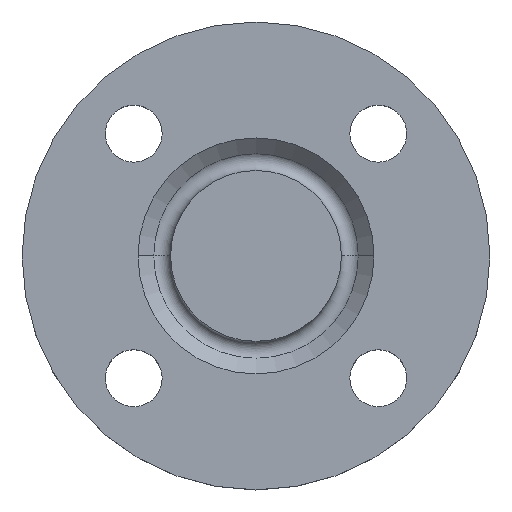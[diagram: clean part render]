
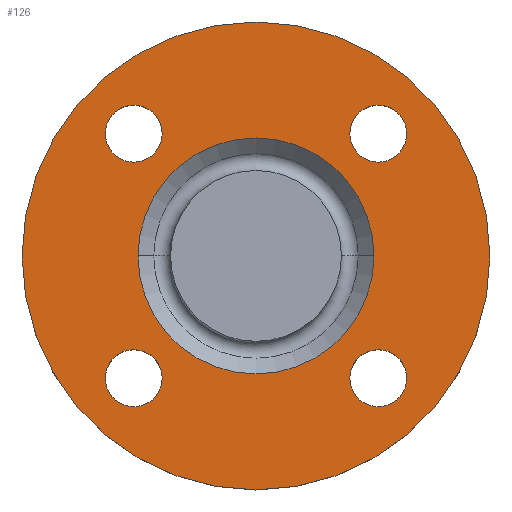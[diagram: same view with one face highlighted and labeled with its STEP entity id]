
A CAD part, top view. The second image highlights one B-rep face of the part: STEP entity #126.
In plain terms, the highlighted planar face has unit normal (0, 0, 1).
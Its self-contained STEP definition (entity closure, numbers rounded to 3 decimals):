
#1 = EDGE_CURVE ( 'NONE', #417, #412, #251, .T. ) ;
#3 = EDGE_CURVE ( 'NONE', #295, #188, #571, .T. ) ;
#10 = EDGE_CURVE ( 'NONE', #398, #407, #17, .T. ) ;
#17 = CIRCLE ( 'NONE', #243, 7. ) ;
#24 = EDGE_CURVE ( 'NONE', #412, #417, #563, .T. ) ;
#33 = CARTESIAN_POINT ( 'NONE',  ( 0., 0., -2. ) ) ;
#40 = DIRECTION ( 'NONE',  ( -1., 0., 0. ) ) ;
#41 = DIRECTION ( 'NONE',  ( 0., 0., -1. ) ) ;
#48 = CIRCLE ( 'NONE', #457, 7. ) ;
#49 = EDGE_CURVE ( 'NONE', #414, #397, #140, .T. ) ;
#52 = CARTESIAN_POINT ( 'NONE',  ( -30.052, 30.052, -2. ) ) ;
#55 = DIRECTION ( 'NONE',  ( 0., 0., -1. ) ) ;
#56 = DIRECTION ( 'NONE',  ( 1., 0., 0. ) ) ;
#63 = AXIS2_PLACEMENT_3D ( 'NONE', #220, #221, #222 ) ;
#65 = AXIS2_PLACEMENT_3D ( 'NONE', #437, #438, #440 ) ;
#67 = EDGE_CURVE ( 'NONE', #193, #341, #169, .T. ) ;
#85 = CIRCLE ( 'NONE', #63, 7. ) ;
#109 = AXIS2_PLACEMENT_3D ( 'NONE', #543, #544, #545 ) ;
#111 = AXIS2_PLACEMENT_3D ( 'NONE', #152, #160, #161 ) ;
#119 = CARTESIAN_POINT ( 'NONE',  ( 0., 0., -2. ) ) ;
#121 = DIRECTION ( 'NONE',  ( 0., 0., -1. ) ) ;
#126 = ADVANCED_FACE ( 'NONE', ( #536, #537, #538, #539, #540, #541 ), #542, .T. ) ;
#131 = DIRECTION ( 'NONE',  ( -1., 0., 0. ) ) ;
#136 = AXIS2_PLACEMENT_3D ( 'NONE', #480, #482, #483 ) ;
#140 = CIRCLE ( 'NONE', #265, 29. ) ;
#152 = CARTESIAN_POINT ( 'NONE',  ( 0., 0., -2. ) ) ;
#160 = DIRECTION ( 'NONE',  ( 0., 0., -1. ) ) ;
#161 = DIRECTION ( 'NONE',  ( -1., 0., 0. ) ) ;
#163 = CARTESIAN_POINT ( 'NONE',  ( 30.052, 30.052, -2. ) ) ;
#164 = DIRECTION ( 'NONE',  ( 0., 0., -1. ) ) ;
#165 = DIRECTION ( 'NONE',  ( 1., 0., 0. ) ) ;
#169 = CIRCLE ( 'NONE', #350, 7. ) ;
#176 = CARTESIAN_POINT ( 'NONE',  ( 37.052, 30.052, -2. ) ) ;
#181 = CIRCLE ( 'NONE', #202, 57.5 ) ;
#188 = VERTEX_POINT ( 'NONE', #586 ) ;
#193 = VERTEX_POINT ( 'NONE', #587 ) ;
#202 = AXIS2_PLACEMENT_3D ( 'NONE', #119, #121, #131 ) ;
#212 = CARTESIAN_POINT ( 'NONE',  ( -37.052, 30.052, -2. ) ) ;
#214 = CIRCLE ( 'NONE', #111, 57.5 ) ;
#220 = CARTESIAN_POINT ( 'NONE',  ( -30.052, -30.052, -2. ) ) ;
#221 = DIRECTION ( 'NONE',  ( 0., 0., -1. ) ) ;
#222 = DIRECTION ( 'NONE',  ( 1., 0., 0. ) ) ;
#223 = CARTESIAN_POINT ( 'NONE',  ( 29., 0., -2. ) ) ;
#224 = CARTESIAN_POINT ( 'NONE',  ( -23.052, -30.052, -2. ) ) ;
#225 = CARTESIAN_POINT ( 'NONE',  ( -37.052, -30.052, -2. ) ) ;
#229 = EDGE_CURVE ( 'NONE', #397, #414, #315, .T. ) ;
#230 = CARTESIAN_POINT ( 'NONE',  ( 37.052, -30.052, -2. ) ) ;
#232 = CARTESIAN_POINT ( 'NONE',  ( -29., 0., -2. ) ) ;
#235 = CARTESIAN_POINT ( 'NONE',  ( 23.052, -30.052, -2. ) ) ;
#240 = CARTESIAN_POINT ( 'NONE',  ( -57.5, 0., -2. ) ) ;
#243 = AXIS2_PLACEMENT_3D ( 'NONE', #451, #452, #453 ) ;
#246 = CARTESIAN_POINT ( 'NONE',  ( 57.5, 0., -2. ) ) ;
#250 = AXIS2_PLACEMENT_3D ( 'NONE', #434, #435, #436 ) ;
#251 = CIRCLE ( 'NONE', #250, 7. ) ;
#255 = EDGE_CURVE ( 'NONE', #420, #418, #181, .T. ) ;
#257 = AXIS2_PLACEMENT_3D ( 'NONE', #33, #41, #40 ) ;
#263 = EDGE_LOOP ( 'NONE', ( #342, #343 ) ) ;
#265 = AXIS2_PLACEMENT_3D ( 'NONE', #493, #497, #498 ) ;
#266 = EDGE_CURVE ( 'NONE', #418, #420, #214, .T. ) ;
#271 = EDGE_CURVE ( 'NONE', #188, #295, #48, .T. ) ;
#293 = EDGE_LOOP ( 'NONE', ( #335, #336 ) ) ;
#295 = VERTEX_POINT ( 'NONE', #176 ) ;
#315 = CIRCLE ( 'NONE', #257, 29. ) ;
#333 = ORIENTED_EDGE ( 'NONE', *, *, #24, .T. ) ;
#334 = ORIENTED_EDGE ( 'NONE', *, *, #1, .T. ) ;
#335 = ORIENTED_EDGE ( 'NONE', *, *, #10, .T. ) ;
#336 = ORIENTED_EDGE ( 'NONE', *, *, #383, .T. ) ;
#337 = ORIENTED_EDGE ( 'NONE', *, *, #67, .T. ) ;
#338 = ORIENTED_EDGE ( 'NONE', *, *, #573, .T. ) ;
#339 = ORIENTED_EDGE ( 'NONE', *, *, #3, .T. ) ;
#340 = ORIENTED_EDGE ( 'NONE', *, *, #271, .T. ) ;
#341 = VERTEX_POINT ( 'NONE', #212 ) ;
#342 = ORIENTED_EDGE ( 'NONE', *, *, #229, .T. ) ;
#343 = ORIENTED_EDGE ( 'NONE', *, *, #49, .T. ) ;
#344 = EDGE_LOOP ( 'NONE', ( #337, #338 ) ) ;
#345 = ORIENTED_EDGE ( 'NONE', *, *, #255, .F. ) ;
#346 = ORIENTED_EDGE ( 'NONE', *, *, #266, .F. ) ;
#350 = AXIS2_PLACEMENT_3D ( 'NONE', #507, #508, #509 ) ;
#383 = EDGE_CURVE ( 'NONE', #407, #398, #85, .T. ) ;
#397 = VERTEX_POINT ( 'NONE', #223 ) ;
#398 = VERTEX_POINT ( 'NONE', #224 ) ;
#402 = EDGE_LOOP ( 'NONE', ( #339, #340 ) ) ;
#405 = EDGE_LOOP ( 'NONE', ( #333, #334 ) ) ;
#407 = VERTEX_POINT ( 'NONE', #225 ) ;
#412 = VERTEX_POINT ( 'NONE', #230 ) ;
#414 = VERTEX_POINT ( 'NONE', #232 ) ;
#417 = VERTEX_POINT ( 'NONE', #235 ) ;
#418 = VERTEX_POINT ( 'NONE', #240 ) ;
#420 = VERTEX_POINT ( 'NONE', #246 ) ;
#423 = EDGE_LOOP ( 'NONE', ( #345, #346 ) ) ;
#434 = CARTESIAN_POINT ( 'NONE',  ( 30.052, -30.052, -2. ) ) ;
#435 = DIRECTION ( 'NONE',  ( 0., 0., -1. ) ) ;
#436 = DIRECTION ( 'NONE',  ( 1., 0., 0. ) ) ;
#437 = CARTESIAN_POINT ( 'NONE',  ( 30.052, 30.052, -2. ) ) ;
#438 = DIRECTION ( 'NONE',  ( 0., 0., -1. ) ) ;
#440 = DIRECTION ( 'NONE',  ( 1., 0., 0. ) ) ;
#451 = CARTESIAN_POINT ( 'NONE',  ( -30.052, -30.052, -2. ) ) ;
#452 = DIRECTION ( 'NONE',  ( 0., 0., -1. ) ) ;
#453 = DIRECTION ( 'NONE',  ( 1., 0., 0. ) ) ;
#457 = AXIS2_PLACEMENT_3D ( 'NONE', #163, #164, #165 ) ;
#480 = CARTESIAN_POINT ( 'NONE',  ( 30.052, -30.052, -2. ) ) ;
#482 = DIRECTION ( 'NONE',  ( 0., 0., -1. ) ) ;
#483 = DIRECTION ( 'NONE',  ( 1., 0., 0. ) ) ;
#493 = CARTESIAN_POINT ( 'NONE',  ( 0., 0., -2. ) ) ;
#497 = DIRECTION ( 'NONE',  ( 0., 0., -1. ) ) ;
#498 = DIRECTION ( 'NONE',  ( -1., 0., 0. ) ) ;
#507 = CARTESIAN_POINT ( 'NONE',  ( -30.052, 30.052, -2. ) ) ;
#508 = DIRECTION ( 'NONE',  ( 0., 0., -1. ) ) ;
#509 = DIRECTION ( 'NONE',  ( 1., 0., 0. ) ) ;
#517 = AXIS2_PLACEMENT_3D ( 'NONE', #52, #55, #56 ) ;
#536 = FACE_BOUND ( 'NONE', #405, .T. ) ;
#537 = FACE_BOUND ( 'NONE', #293, .T. ) ;
#538 = FACE_BOUND ( 'NONE', #344, .T. ) ;
#539 = FACE_BOUND ( 'NONE', #402, .T. ) ;
#540 = FACE_BOUND ( 'NONE', #263, .T. ) ;
#541 = FACE_OUTER_BOUND ( 'NONE', #423, .T. ) ;
#542 = PLANE ( 'NONE',  #109 ) ;
#543 = CARTESIAN_POINT ( 'NONE',  ( 57.5, 0., -2. ) ) ;
#544 = DIRECTION ( 'NONE',  ( 0., 0., 1. ) ) ;
#545 = DIRECTION ( 'NONE',  ( 1., 0., 0. ) ) ;
#563 = CIRCLE ( 'NONE', #136, 7. ) ;
#571 = CIRCLE ( 'NONE', #65, 7. ) ;
#573 = EDGE_CURVE ( 'NONE', #341, #193, #603, .T. ) ;
#586 = CARTESIAN_POINT ( 'NONE',  ( 23.052, 30.052, -2. ) ) ;
#587 = CARTESIAN_POINT ( 'NONE',  ( -23.052, 30.052, -2. ) ) ;
#603 = CIRCLE ( 'NONE', #517, 7. ) ;
